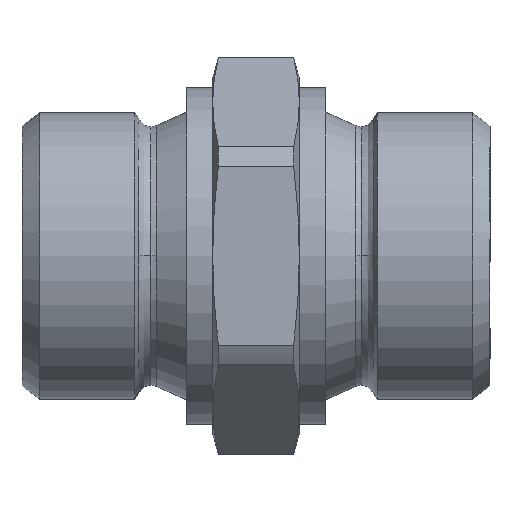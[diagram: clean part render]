
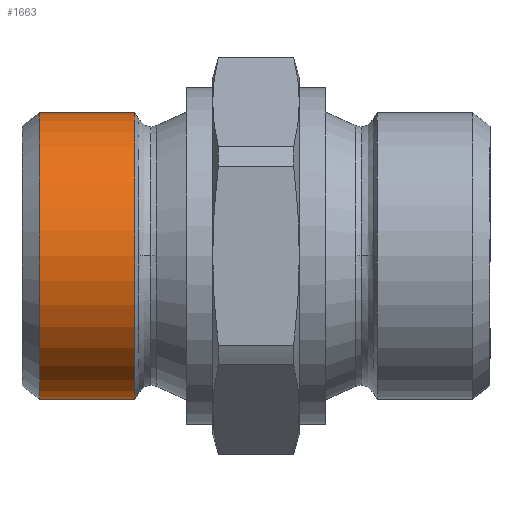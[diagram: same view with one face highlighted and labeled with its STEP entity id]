
A CAD part, top view. The second image highlights one B-rep face of the part: STEP entity #1663.
In plain terms, the highlighted cylindrical face has radius 16.535 mm (diameter 33.07 mm), a partial arc.
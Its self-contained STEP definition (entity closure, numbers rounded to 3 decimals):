
#997=CARTESIAN_POINT('',(0.,-16.535,24.963));
#998=VERTEX_POINT('',#997);
#999=CARTESIAN_POINT('',(0.,-16.535,13.985));
#1000=VERTEX_POINT('',#999);
#1001=CARTESIAN_POINT('',(0.,-16.535,24.963));
#1002=DIRECTION('',(0.0,0.0,-1.0));
#1003=VECTOR('',#1002,10.978);
#1004=LINE('',#1001,#1003);
#1005=EDGE_CURVE('',#998,#1000,#1004,.T.);
#1007=CARTESIAN_POINT('',(0.,16.535,24.963));
#1008=VERTEX_POINT('',#1007);
#1016=CARTESIAN_POINT('',(0.,16.535,13.985));
#1017=VERTEX_POINT('',#1016);
#1018=CARTESIAN_POINT('',(0.,16.535,13.985));
#1019=DIRECTION('',(0.0,0.0,1.0));
#1020=VECTOR('',#1019,10.978);
#1021=LINE('',#1018,#1020);
#1022=EDGE_CURVE('',#1017,#1008,#1021,.T.);
#1461=CARTESIAN_POINT('',(0.,0.,13.985));
#1462=DIRECTION('',(0.0,0.0,-1.0));
#1463=DIRECTION('',(0.0,-1.0,0.0));
#1464=AXIS2_PLACEMENT_3D('',#1461,#1462,#1463);
#1465=CIRCLE('',#1464,16.535);
#1466=EDGE_CURVE('',#1017,#1000,#1465,.T.);
#1640=CARTESIAN_POINT('',(0.,0.,24.963));
#1641=DIRECTION('',(0.0,0.0,-1.0));
#1642=DIRECTION('',(0.0,-1.0,0.0));
#1643=AXIS2_PLACEMENT_3D('',#1640,#1641,#1642);
#1644=CIRCLE('',#1643,16.535);
#1645=EDGE_CURVE('',#1008,#998,#1644,.T.);
#1652=CARTESIAN_POINT('',(0.,0.,19.474));
#1653=DIRECTION('',(0.,0.,-1.0));
#1654=DIRECTION('',(0.0,-1.0,0.0));
#1655=AXIS2_PLACEMENT_3D('',#1652,#1653,#1654);
#1656=CYLINDRICAL_SURFACE('',#1655,16.535);
#1657=ORIENTED_EDGE('',*,*,#1005,.T.);
#1658=ORIENTED_EDGE('',*,*,#1466,.F.);
#1659=ORIENTED_EDGE('',*,*,#1022,.T.);
#1660=ORIENTED_EDGE('',*,*,#1645,.T.);
#1661=EDGE_LOOP('',(#1657,#1658,#1659,#1660));
#1662=FACE_OUTER_BOUND('',#1661,.T.);
#1663=ADVANCED_FACE('',(#1662),#1656,.T.);
